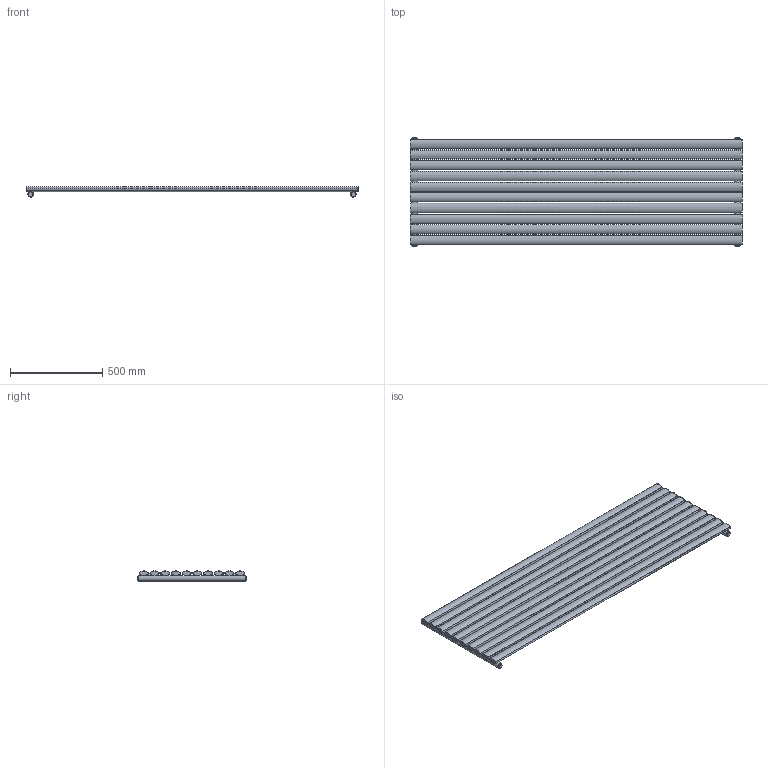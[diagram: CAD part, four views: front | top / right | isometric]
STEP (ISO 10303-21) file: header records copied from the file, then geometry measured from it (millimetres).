
FILE_DESCRIPTION(/* description */ (''),/* implementation_level */ '2;1');
FILE_NAME(/* name */ 'C:\Grzejniki\13DLUXRAD\pokojowe\FORTUNA\FORTUNA POJEDYNCZA 1800x584.iam.stp',/* time_stamp */ '2016-06-28T17:32:20+02:00',/* author */ ('m.szydziak'),/* organization */ (''),/* preprocessor_version */ 'ST-DEVELOPER v16.5',/* originating_system */ 'Autodesk Inventor 2017',/* authorisation */ '');
FILE_SCHEMA (('AUTOMOTIVE_DESIGN { 1 0 10303 214 3 1 1 }'));
Length unit declared in the file: millimetre
Products named in the file (5): FORTUNA POJEDYNCZA 1800x584; %%c30x1,5x584; 50x25x1,2x1800; zaślepka fi30 G0,5inch; korek
Assembly tree (20 placements, depth 2):
  FORTUNA POJEDYNCZA 1800x584
    %%c30x1,5x584  x2
    50x25x1,2x1800  x10
    zaślepka fi30 G0,5inch  x4
    korek  x4
Bounding box: 1800 x 596 x 54.86 mm (x, y, z)
Volume: 2708518.1 mm3; surface area: 4452245 mm2
Topology: 20 solids, 20 shells, 244 faces, 636 edges, 452 vertices
Faces by surface type: cylinder 136, plane 108
Full cylindrical faces by diameter (mm): 5 x20, 5.8 x20, 18.631 x4, 24 x4, 27 x6, 30 x2
Entity records: 2437 total; most frequent: CARTESIAN_POINT 1078, DIRECTION 250, ORIENTED_EDGE 210, AXIS2_PLACEMENT_3D 109, EDGE_CURVE 105, EDGE_LOOP 92, VERTEX_POINT 85, FACE_OUTER_BOUND 47
